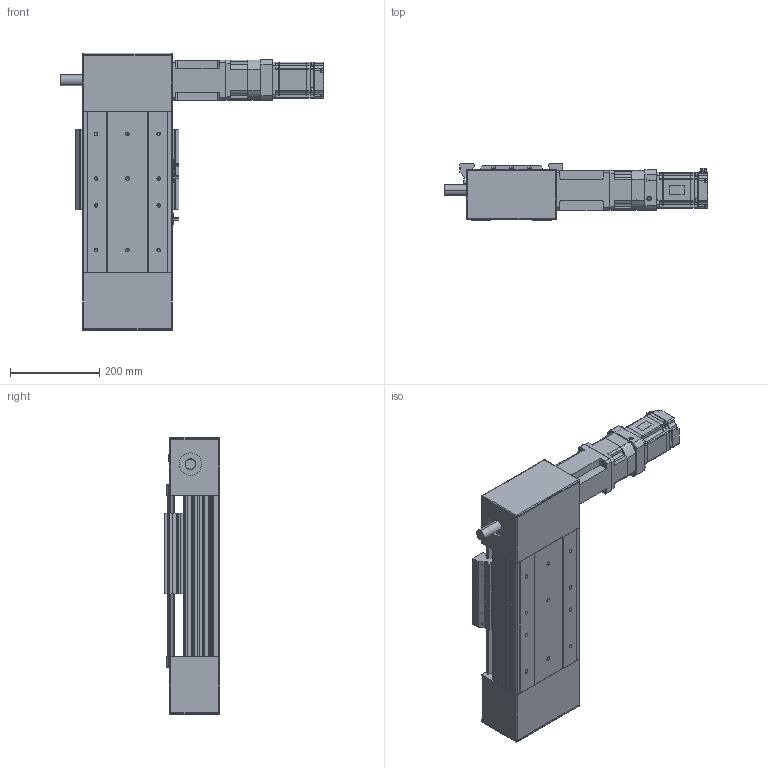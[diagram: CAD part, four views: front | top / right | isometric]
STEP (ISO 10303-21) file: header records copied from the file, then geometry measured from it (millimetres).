
FILE_DESCRIPTION (( 'STEP AP203' ), '1' );
FILE_NAME ('PCB200SDN-0000-ST100-75NR00-N-I3R.STEP', '2015-10-23T03:51:55', ( '' ), ( '' ), 'SwSTEP 2.0', 'SolidWorks 2012', '' );
FILE_SCHEMA (( 'CONFIG_CONTROL_DESIGN' ));
Length unit declared in the file: millimetre
Products named in the file (11): POB200-SENSOR Dog; EE_SX672; PCB200SDN-0000-ST100-75NR00-N-I3R; POB200 Carrier; sgmjv_08a_a21; jc48c; PGX90-H-1_3; PCB200-Idler Pulley Block S; PCB200-Drive Pulley Block D; POB200-100ST BASE; MOTOR Bracket
Assembly tree (12 placements, depth 2):
  PCB200SDN-0000-ST100-75NR00-N-I3R
    POB200-100ST BASE
    PCB200-Drive Pulley Block D
    PCB200-Idler Pulley Block S
    MOTOR Bracket
    jc48c
    PGX90-H-1_3
    sgmjv_08a_a21
    POB200 Carrier
    POB200-SENSOR Dog
    EE_SX672  x3
Bounding box: 588.6 x 125 x 620 mm (x, y, z)
Volume: 11386004.4 mm3; surface area: 1385467.5 mm2
Topology: 36 solids, 36 shells, 2169 faces, 5689 edges, 3668 vertices
Faces by surface type: plane 1187, cylinder 768, cone 171, bspline 35, sphere 4, torus 4
Entity records: 65932 total; most frequent: CARTESIAN_POINT 13802, DIRECTION 10799, ORIENTED_EDGE 10490, EDGE_CURVE 5245, AXIS2_PLACEMENT_3D 3706, VERTEX_POINT 3420, LINE 3387, VECTOR 3387
